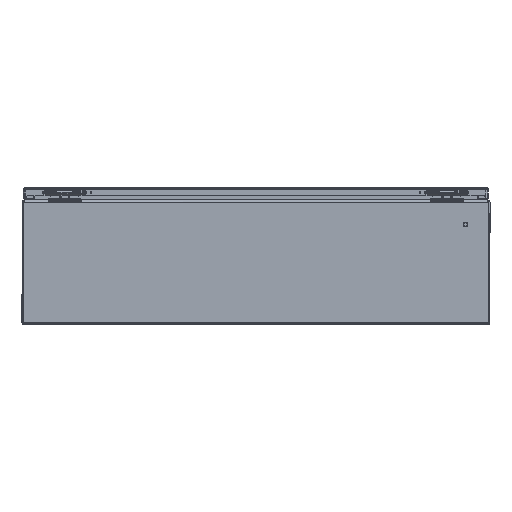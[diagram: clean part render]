
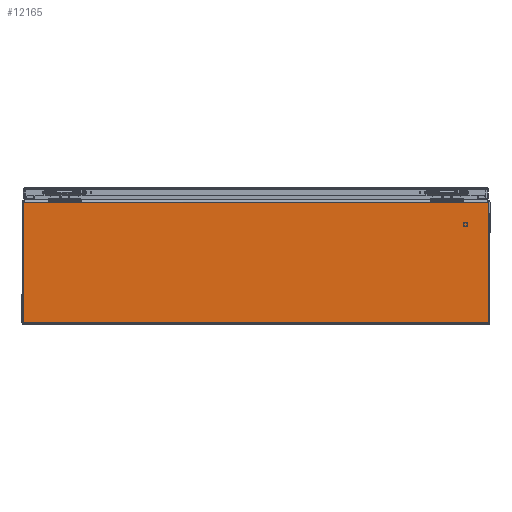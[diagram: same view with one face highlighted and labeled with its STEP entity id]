
A CAD part, left-side view. The second image highlights one B-rep face of the part: STEP entity #12165.
In plain terms, the highlighted planar face has unit normal (-1, 0, 0).
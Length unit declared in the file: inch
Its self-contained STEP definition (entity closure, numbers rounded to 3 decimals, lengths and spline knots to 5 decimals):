
#303 = CARTESIAN_POINT ( 'NONE',  ( -18., 14.92093, 0.132 ) ) ;
#307 = CARTESIAN_POINT ( 'NONE',  ( -18., 14.92093, 7.838 ) ) ;
#429 = CARTESIAN_POINT ( 'NONE',  ( -18., -14.92093, 7.838 ) ) ;
#434 = CARTESIAN_POINT ( 'NONE',  ( -18., -14.92093, 0.132 ) ) ;
#3432 = EDGE_LOOP ( 'NONE', ( #6436, #6437, #6438, #6439 ) ) ;
#6436 = ORIENTED_EDGE ( 'NONE', *, *, #17458, .T. ) ;
#6437 = ORIENTED_EDGE ( 'NONE', *, *, #17503, .F. ) ;
#6438 = ORIENTED_EDGE ( 'NONE', *, *, #17384, .T. ) ;
#6439 = ORIENTED_EDGE ( 'NONE', *, *, #17511, .T. ) ;
#12165 = ADVANCED_FACE ( 'NONE', ( #31237 ), #29505, .T. ) ;
#15018 = DIRECTION ( 'NONE',  ( 0., -1., 0. ) ) ;
#15038 = CARTESIAN_POINT ( 'NONE',  ( -18., 195., 7.838 ) ) ;
#15869 = DIRECTION ( 'NONE',  ( 0., 0., 1. ) ) ;
#15873 = CARTESIAN_POINT ( 'NONE',  ( -18., -14.92093, 7.838 ) ) ;
#15970 = CARTESIAN_POINT ( 'NONE',  ( -18., 195., 0.132 ) ) ;
#16198 = DIRECTION ( 'NONE',  ( 0., -1., 0. ) ) ;
#16548 = DIRECTION ( 'NONE',  ( 0., 0., -1. ) ) ;
#16561 = CARTESIAN_POINT ( 'NONE',  ( -18., 14.92093, 7.838 ) ) ;
#17384 = EDGE_CURVE ( 'NONE', #33640, #33644, #34796, .T. ) ;
#17458 = EDGE_CURVE ( 'NONE', #33537, #33541, #34851, .T. ) ;
#17503 = EDGE_CURVE ( 'NONE', #33640, #33541, #34898, .T. ) ;
#17511 = EDGE_CURVE ( 'NONE', #33644, #33537, #34909, .T. ) ;
#24599 = AXIS2_PLACEMENT_3D ( 'NONE', #29512, #29498, #29497 ) ;
#29497 = DIRECTION ( 'NONE',  ( 0., 0., -1. ) ) ;
#29498 = DIRECTION ( 'NONE',  ( -1., 0., 0. ) ) ;
#29505 = PLANE ( 'NONE',  #24599 ) ;
#29512 = CARTESIAN_POINT ( 'NONE',  ( -18., 195., 7.838 ) ) ;
#31237 = FACE_OUTER_BOUND ( 'NONE', #3432, .T. ) ;
#33537 = VERTEX_POINT ( 'NONE', #434 ) ;
#33541 = VERTEX_POINT ( 'NONE', #429 ) ;
#33640 = VERTEX_POINT ( 'NONE', #307 ) ;
#33644 = VERTEX_POINT ( 'NONE', #303 ) ;
#34788 = VECTOR ( 'NONE', #16548, 39.37008 ) ;
#34796 = LINE ( 'NONE', #16561, #34788 ) ;
#34851 = LINE ( 'NONE', #15873, #34861 ) ;
#34861 = VECTOR ( 'NONE', #15869, 39.37008 ) ;
#34898 = LINE ( 'NONE', #15038, #34899 ) ;
#34899 = VECTOR ( 'NONE', #15018, 39.37008 ) ;
#34909 = LINE ( 'NONE', #15970, #34911 ) ;
#34911 = VECTOR ( 'NONE', #16198, 39.37008 ) ;
